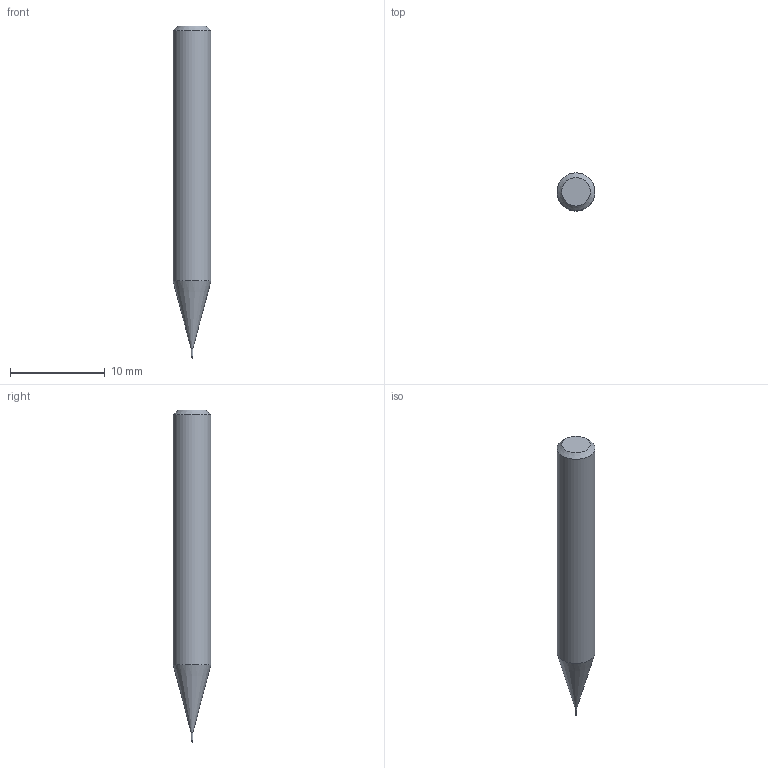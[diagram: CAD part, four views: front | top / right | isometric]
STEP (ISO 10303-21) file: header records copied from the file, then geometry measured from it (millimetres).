
FILE_DESCRIPTION((''),'2;1');
FILE_NAME('C:\Users\nsx150\AppData\Local\Temp\Mastercam 2021\QT8KEW0Y7J\TEMP.step','2021-04-23T11:20:19',(''),(''),'STEP Write','Mastercam 2021 ... CNC Software, Inc.','');
FILE_SCHEMA(('AUTOMOTIVE_DESIGN'));
Length unit declared in the file: millimetre
Products named in the file (1): None
Bounding box: 4 x 4 x 35 mm (x, y, z)
Volume: 367.5 mm3; surface area: 395.3 mm2
Topology: 2 solids, 2 shells, 9 faces, 14 edges, 8 vertices
Faces by surface type: plane 3, cylinder 3, cone 2, sphere 1
Full cylindrical faces by diameter (mm): 0.18 x1, 0.2 x1, 4 x1
Entity records: 211 total; most frequent: DIRECTION 36, CARTESIAN_POINT 25, AXIS2_PLACEMENT_3D 18, ORIENTED_EDGE 14, EDGE_LOOP 14, STYLED_ITEM 12, ADVANCED_FACE 9, FACE_BOUND 8
